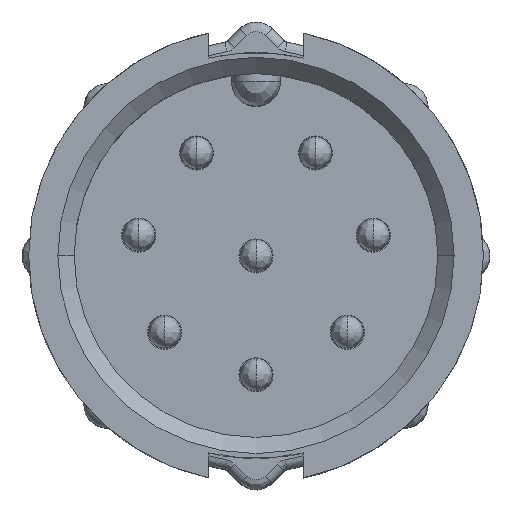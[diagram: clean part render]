
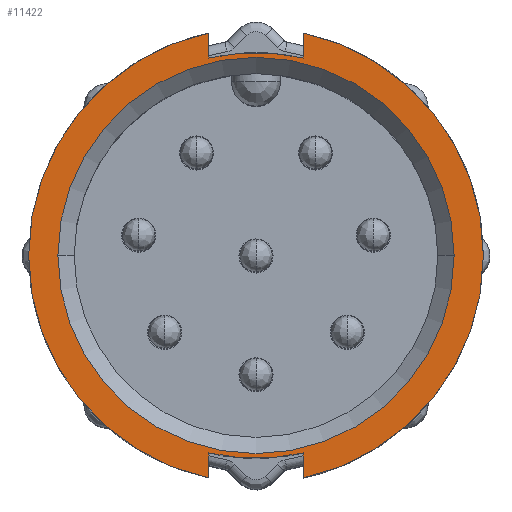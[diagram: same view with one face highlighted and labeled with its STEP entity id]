
A CAD part, top view. The second image highlights one B-rep face of the part: STEP entity #11422.
In plain terms, the highlighted planar face has unit normal (0, 0, 1).
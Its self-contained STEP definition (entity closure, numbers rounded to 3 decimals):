
#188 = VERTEX_POINT ( 'NONE', #2023 ) ;
#215 = CARTESIAN_POINT ( 'NONE',  ( 0., 0., 0. ) ) ;
#310 = VERTEX_POINT ( 'NONE', #17028 ) ;
#375 = CARTESIAN_POINT ( 'NONE',  ( -1.45, 0., 0. ) ) ;
#376 = PLANE ( 'NONE',  #2957 ) ;
#476 = DIRECTION ( 'NONE',  ( 1., 0., 0. ) ) ;
#1537 = DIRECTION ( 'NONE',  ( 1., 0., 0. ) ) ;
#1566 = CIRCLE ( 'NONE', #15544, 6.1 ) ;
#1704 = EDGE_CURVE ( 'NONE', #310, #4795, #10054, .T. ) ;
#1797 = CARTESIAN_POINT ( 'NONE',  ( -1.45, 0., 0. ) ) ;
#2023 = CARTESIAN_POINT ( 'NONE',  ( 1.45, -6.079, 0. ) ) ;
#2081 = DIRECTION ( 'NONE',  ( 0., 0., -1. ) ) ;
#2957 = AXIS2_PLACEMENT_3D ( 'NONE', #10725, #16156, #476 ) ;
#3058 = ORIENTED_EDGE ( 'NONE', *, *, #15846, .F. ) ;
#3768 = VERTEX_POINT ( 'NONE', #14813 ) ;
#3836 = CARTESIAN_POINT ( 'NONE',  ( 1.45, 6.079, 0. ) ) ;
#3941 = DIRECTION ( 'NONE',  ( 0., 1., 0. ) ) ;
#3976 = CARTESIAN_POINT ( 'NONE',  ( 0., 0., 0. ) ) ;
#4795 = VERTEX_POINT ( 'NONE', #11630 ) ;
#5023 = DIRECTION ( 'NONE',  ( 0., -1., 0. ) ) ;
#5591 = EDGE_LOOP ( 'NONE', ( #7518, #18225, #9264, #3058, #12158, #14756, #12322, #13116 ) ) ;
#5625 = DIRECTION ( 'NONE',  ( 0., 0., 1. ) ) ;
#5811 = CARTESIAN_POINT ( 'NONE',  ( -1.45, 6.848, 0. ) ) ;
#6026 = DIRECTION ( 'NONE',  ( 0., 0., -1. ) ) ;
#6239 = EDGE_CURVE ( 'NONE', #3768, #18112, #6265, .T. ) ;
#6265 = LINE ( 'NONE', #1797, #6799 ) ;
#6274 = AXIS2_PLACEMENT_3D ( 'NONE', #9576, #2081, #5023 ) ;
#6419 = AXIS2_PLACEMENT_3D ( 'NONE', #10406, #6026, #11837 ) ;
#6620 = DIRECTION ( 'NONE',  ( 1., 0., 0. ) ) ;
#6799 = VECTOR ( 'NONE', #13299, 1000. ) ;
#7062 = CARTESIAN_POINT ( 'NONE',  ( 0., 0., 0. ) ) ;
#7402 = LINE ( 'NONE', #13297, #15434 ) ;
#7518 = ORIENTED_EDGE ( 'NONE', *, *, #16596, .F. ) ;
#7755 = CARTESIAN_POINT ( 'NONE',  ( 6.1, 0., 0. ) ) ;
#7971 = EDGE_CURVE ( 'NONE', #13511, #14031, #8906, .T. ) ;
#8356 = EDGE_LOOP ( 'NONE', ( #17940, #13121 ) ) ;
#8829 = AXIS2_PLACEMENT_3D ( 'NONE', #215, #14560, #1537 ) ;
#8906 = CIRCLE ( 'NONE', #18641, 6.1 ) ;
#9264 = ORIENTED_EDGE ( 'NONE', *, *, #15275, .F. ) ;
#9296 = LINE ( 'NONE', #375, #17026 ) ;
#9576 = CARTESIAN_POINT ( 'NONE',  ( 0., 0., 0. ) ) ;
#9645 = CARTESIAN_POINT ( 'NONE',  ( -1.45, 6.079, 0. ) ) ;
#10054 = CIRCLE ( 'NONE', #6419, 7. ) ;
#10354 = EDGE_CURVE ( 'NONE', #13801, #17553, #16911, .T. ) ;
#10367 = CIRCLE ( 'NONE', #15251, 6.25 ) ;
#10406 = CARTESIAN_POINT ( 'NONE',  ( 0., 0., 0. ) ) ;
#10442 = FACE_OUTER_BOUND ( 'NONE', #5591, .T. ) ;
#10725 = CARTESIAN_POINT ( 'NONE',  ( -7.286, -7.122, 0. ) ) ;
#10893 = CARTESIAN_POINT ( 'NONE',  ( 0., 0., 0. ) ) ;
#11422 = ADVANCED_FACE ( 'NONE', ( #16540, #10442 ), #376, .T. ) ;
#11466 = EDGE_CURVE ( 'NONE', #17553, #310, #7402, .T. ) ;
#11630 = CARTESIAN_POINT ( 'NONE',  ( 1.45, -6.848, 0. ) ) ;
#11773 = DIRECTION ( 'NONE',  ( 0., 1., 0. ) ) ;
#11837 = DIRECTION ( 'NONE',  ( 1., 0., 0. ) ) ;
#12048 = CARTESIAN_POINT ( 'NONE',  ( -1.45, -6.848, 0. ) ) ;
#12158 = ORIENTED_EDGE ( 'NONE', *, *, #1704, .F. ) ;
#12322 = ORIENTED_EDGE ( 'NONE', *, *, #10354, .F. ) ;
#12472 = CIRCLE ( 'NONE', #8829, 7. ) ;
#13116 = ORIENTED_EDGE ( 'NONE', *, *, #18501, .F. ) ;
#13121 = ORIENTED_EDGE ( 'NONE', *, *, #7971, .F. ) ;
#13297 = CARTESIAN_POINT ( 'NONE',  ( 1.45, 0., 0. ) ) ;
#13299 = DIRECTION ( 'NONE',  ( 0., -1., 0. ) ) ;
#13443 = CARTESIAN_POINT ( 'NONE',  ( -6.1, 0., 0. ) ) ;
#13511 = VERTEX_POINT ( 'NONE', #7755 ) ;
#13801 = VERTEX_POINT ( 'NONE', #9645 ) ;
#13840 = LINE ( 'NONE', #18224, #16452 ) ;
#14031 = VERTEX_POINT ( 'NONE', #13443 ) ;
#14560 = DIRECTION ( 'NONE',  ( 0., 0., -1. ) ) ;
#14756 = ORIENTED_EDGE ( 'NONE', *, *, #11466, .F. ) ;
#14813 = CARTESIAN_POINT ( 'NONE',  ( -1.45, -6.079, 0. ) ) ;
#15209 = DIRECTION ( 'NONE',  ( 0., -1., 0. ) ) ;
#15251 = AXIS2_PLACEMENT_3D ( 'NONE', #3976, #18727, #17007 ) ;
#15275 = EDGE_CURVE ( 'NONE', #188, #3768, #10367, .T. ) ;
#15434 = VECTOR ( 'NONE', #11773, 1000. ) ;
#15544 = AXIS2_PLACEMENT_3D ( 'NONE', #7062, #5625, #15910 ) ;
#15846 = EDGE_CURVE ( 'NONE', #4795, #188, #13840, .T. ) ;
#15910 = DIRECTION ( 'NONE',  ( 1., 0., 0. ) ) ;
#16156 = DIRECTION ( 'NONE',  ( 0., 0., 1. ) ) ;
#16452 = VECTOR ( 'NONE', #3941, 1000. ) ;
#16540 = FACE_BOUND ( 'NONE', #8356, .T. ) ;
#16596 = EDGE_CURVE ( 'NONE', #18112, #17808, #12472, .T. ) ;
#16702 = DIRECTION ( 'NONE',  ( 0., 0., 1. ) ) ;
#16911 = CIRCLE ( 'NONE', #6274, 6.25 ) ;
#17007 = DIRECTION ( 'NONE',  ( 0., -1., 0. ) ) ;
#17026 = VECTOR ( 'NONE', #15209, 1000. ) ;
#17028 = CARTESIAN_POINT ( 'NONE',  ( 1.45, 6.848, 0. ) ) ;
#17553 = VERTEX_POINT ( 'NONE', #3836 ) ;
#17715 = EDGE_CURVE ( 'NONE', #14031, #13511, #1566, .T. ) ;
#17808 = VERTEX_POINT ( 'NONE', #5811 ) ;
#17940 = ORIENTED_EDGE ( 'NONE', *, *, #17715, .F. ) ;
#18112 = VERTEX_POINT ( 'NONE', #12048 ) ;
#18224 = CARTESIAN_POINT ( 'NONE',  ( 1.45, 0., 0. ) ) ;
#18225 = ORIENTED_EDGE ( 'NONE', *, *, #6239, .F. ) ;
#18501 = EDGE_CURVE ( 'NONE', #17808, #13801, #9296, .T. ) ;
#18641 = AXIS2_PLACEMENT_3D ( 'NONE', #10893, #16702, #6620 ) ;
#18727 = DIRECTION ( 'NONE',  ( 0., 0., -1. ) ) ;
